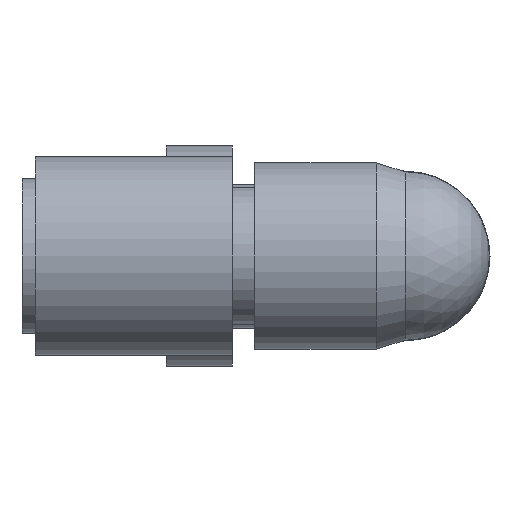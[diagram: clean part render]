
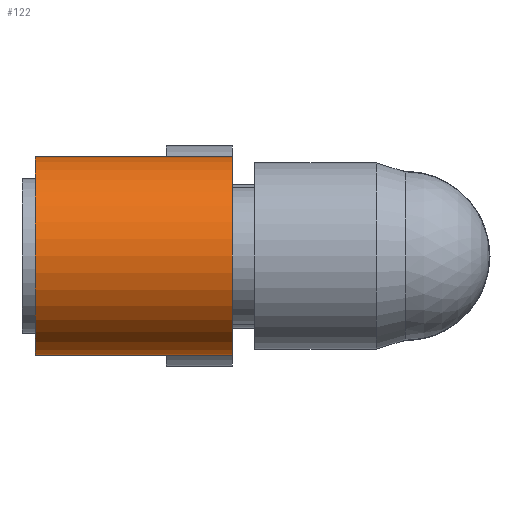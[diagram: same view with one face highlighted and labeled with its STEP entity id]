
A CAD part, left-side view. The second image highlights one B-rep face of the part: STEP entity #122.
In plain terms, the highlighted cylindrical face has radius 4.5 mm (diameter 9 mm), a partial arc.
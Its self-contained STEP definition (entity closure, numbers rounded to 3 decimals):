
#95 = ORIENTED_EDGE ( 'NONE', *, *, #352, .T. ) ;
#122 = ADVANCED_FACE ( 'NONE', ( #1260 ), #1261, .T. ) ;
#207 = ORIENTED_EDGE ( 'NONE', *, *, #2236, .T. ) ;
#238 = VERTEX_POINT ( 'NONE', #2117 ) ;
#326 = VERTEX_POINT ( 'NONE', #1127 ) ;
#352 = EDGE_CURVE ( 'NONE', #666, #326, #1244, .T. ) ;
#552 = EDGE_LOOP ( 'NONE', ( #767, #1388, #95, #207 ) ) ;
#656 = VERTEX_POINT ( 'NONE', #1148 ) ;
#666 = VERTEX_POINT ( 'NONE', #1307 ) ;
#767 = ORIENTED_EDGE ( 'NONE', *, *, #1512, .F. ) ;
#1110 = LINE ( 'NONE', #1111, #1112 ) ;
#1111 = CARTESIAN_POINT ( 'NONE',  ( 0., 8.9, 4.5 ) ) ;
#1112 = VECTOR ( 'NONE', #1113, 1000. ) ;
#1113 = DIRECTION ( 'NONE',  ( 0., -1., 0. ) ) ;
#1127 = CARTESIAN_POINT ( 'NONE',  ( 0., 0., -4.5 ) ) ;
#1148 = CARTESIAN_POINT ( 'NONE',  ( 0., 0., 4.5 ) ) ;
#1244 = LINE ( 'NONE', #1245, #1246 ) ;
#1245 = CARTESIAN_POINT ( 'NONE',  ( 0., 8.9, -4.5 ) ) ;
#1246 = VECTOR ( 'NONE', #1249, 1000. ) ;
#1249 = DIRECTION ( 'NONE',  ( 0., -1., 0. ) ) ;
#1260 = FACE_OUTER_BOUND ( 'NONE', #552, .T. ) ;
#1261 = CYLINDRICAL_SURFACE ( 'NONE', #1262, 4.5 ) ;
#1262 = AXIS2_PLACEMENT_3D ( 'NONE', #1263, #1264, #1269 ) ;
#1263 = CARTESIAN_POINT ( 'NONE',  ( 0., 8.9, 0. ) ) ;
#1264 = DIRECTION ( 'NONE',  ( 0., -1., 0. ) ) ;
#1269 = DIRECTION ( 'NONE',  ( 0., 0., -1. ) ) ;
#1307 = CARTESIAN_POINT ( 'NONE',  ( 0., 8.9, -4.5 ) ) ;
#1388 = ORIENTED_EDGE ( 'NONE', *, *, #1967, .F. ) ;
#1412 = CIRCLE ( 'NONE', #1413, 4.5 ) ;
#1413 = AXIS2_PLACEMENT_3D ( 'NONE', #1414, #1415, #1416 ) ;
#1414 = CARTESIAN_POINT ( 'NONE',  ( 0., 8.9, 0. ) ) ;
#1415 = DIRECTION ( 'NONE',  ( 0., 1., 0. ) ) ;
#1416 = DIRECTION ( 'NONE',  ( 0., 0., 1. ) ) ;
#1512 = EDGE_CURVE ( 'NONE', #238, #656, #1110, .T. ) ;
#1578 = CIRCLE ( 'NONE', #1579, 4.5 ) ;
#1579 = AXIS2_PLACEMENT_3D ( 'NONE', #1580, #1582, #1583 ) ;
#1580 = CARTESIAN_POINT ( 'NONE',  ( 0., 0., 0. ) ) ;
#1582 = DIRECTION ( 'NONE',  ( 0., 1., 0. ) ) ;
#1583 = DIRECTION ( 'NONE',  ( 0., 0., 1. ) ) ;
#1967 = EDGE_CURVE ( 'NONE', #666, #238, #1412, .T. ) ;
#2117 = CARTESIAN_POINT ( 'NONE',  ( 0., 8.9, 4.5 ) ) ;
#2236 = EDGE_CURVE ( 'NONE', #326, #656, #1578, .T. ) ;
